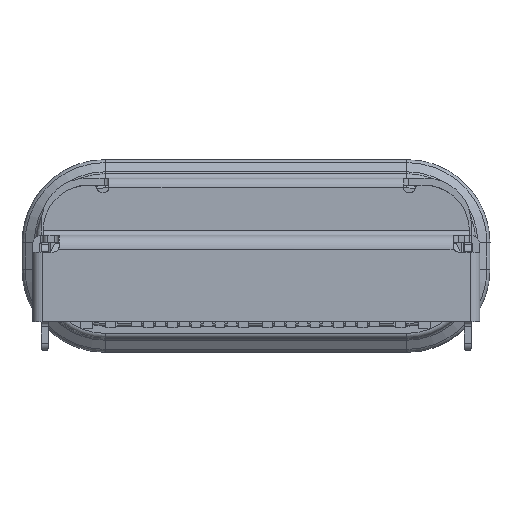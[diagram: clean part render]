
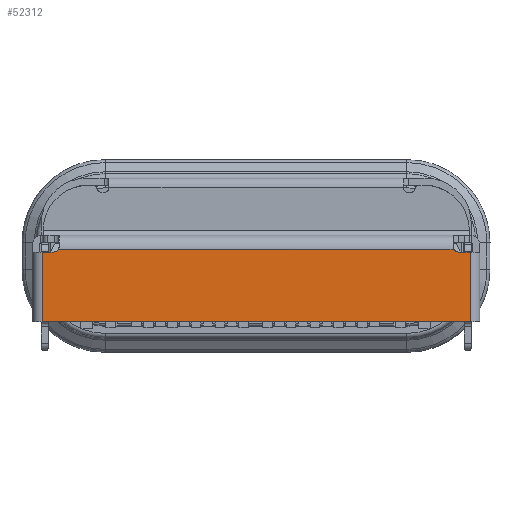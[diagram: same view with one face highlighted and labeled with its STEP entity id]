
A CAD part, top view. The second image highlights one B-rep face of the part: STEP entity #52312.
In plain terms, the highlighted planar face has unit normal (0, 0, -1).
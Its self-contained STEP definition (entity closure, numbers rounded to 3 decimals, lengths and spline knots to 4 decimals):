
#47320=CARTESIAN_POINT('',(1.8526,2.745,
-6.));
#47322=DIRECTION('',(1.,0.,0.));
#47323=VECTOR('',#47322,8.3248);
#47324=CARTESIAN_POINT('',(1.8526,2.745,
-6.));
#47325=LINE('',#47324,#47323);
#47326=CARTESIAN_POINT('',(10.1774,2.745,
-6.));
#47455=DIRECTION('',(1.,0.,0.));
#47456=VECTOR('',#47455,9.01);
#47457=CARTESIAN_POINT('',(1.51,1.215,-6.));
#47458=LINE('',#47457,#47456);
#47459=CARTESIAN_POINT('',(10.29,2.785,-6.));
#47460=DIRECTION('',(0.,0.,-1.));
#47461=DIRECTION('',(0.,-1.,0.));
#47462=AXIS2_PLACEMENT_3D('',#47459,#47460,#47461);
#47464=CARTESIAN_POINT('',(10.265,2.7933,
-6.));
#47465=DIRECTION('',(0.,0.,-1.));
#47466=DIRECTION('',(-0.186,-0.983,0.));
#47467=AXIS2_PLACEMENT_3D('',#47464,#47465,#47466);
#47469=CARTESIAN_POINT('',(1.765,2.7933,-6.));
#47470=DIRECTION('',(0.,0.,-1.));
#47471=DIRECTION('',(0.876,-0.483,0.));
#47472=AXIS2_PLACEMENT_3D('',#47469,#47470,#47471);
#47474=CARTESIAN_POINT('',(1.74,2.785,-6.));
#47475=DIRECTION('',(0.,0.,-1.));
#47476=DIRECTION('',(0.437,-0.9,0.));
#47477=AXIS2_PLACEMENT_3D('',#47474,#47475,#47476);
#47483=DIRECTION('',(0.,-1.,0.));
#47484=VECTOR('',#47483,1.47);
#47485=CARTESIAN_POINT('',(10.52,2.685,-6.));
#47486=LINE('',#47485,#47484);
#47698=DIRECTION('',(1.,0.,0.));
#47699=VECTOR('',#47698,0.23);
#47700=CARTESIAN_POINT('',(10.29,2.685,-6.));
#47701=LINE('',#47700,#47699);
#47747=DIRECTION('',(1.,0.,0.));
#47748=VECTOR('',#47747,0.23);
#47749=CARTESIAN_POINT('',(1.51,2.685,-6.));
#47750=LINE('',#47749,#47748);
#47968=DIRECTION('',(0.,1.,0.));
#47969=VECTOR('',#47968,1.47);
#47970=CARTESIAN_POINT('',(1.51,1.215,-6.));
#47971=LINE('',#47970,#47969);
#48394=VERTEX_POINT('',#47320);
#48395=VERTEX_POINT('',#47326);
#49123=CARTESIAN_POINT('',(1.51,1.215,-6.));
#49124=CARTESIAN_POINT('',(10.52,1.215,-6.));
#49125=VERTEX_POINT('',#49123);
#49126=VERTEX_POINT('',#49124);
#49135=CARTESIAN_POINT('',(10.52,2.685,-6.));
#49136=VERTEX_POINT('',#49135);
#49137=CARTESIAN_POINT('',(10.29,2.685,-6.));
#49138=VERTEX_POINT('',#49137);
#49139=CARTESIAN_POINT('',(10.2464,2.695,-6.));
#49140=VERTEX_POINT('',#49139);
#49141=CARTESIAN_POINT('',(1.7837,2.695,-6.));
#49142=VERTEX_POINT('',#49141);
#49143=CARTESIAN_POINT('',(1.74,2.685,-6.));
#49144=VERTEX_POINT('',#49143);
#49145=CARTESIAN_POINT('',(1.51,2.685,-6.));
#49146=VERTEX_POINT('',#49145);
#52287=CARTESIAN_POINT('',(6.015,1.98,-6.));
#52288=DIRECTION('',(0.,0.,1.));
#52289=DIRECTION('',(1.,0.,0.));
#52290=AXIS2_PLACEMENT_3D('',#52287,#52288,#52289);
#52291=PLANE('',#52290);
#52292=ORIENTED_EDGE('',*,*,#52261,.T.);
#52294=ORIENTED_EDGE('',*,*,#52293,.F.);
#52296=ORIENTED_EDGE('',*,*,#52295,.F.);
#52298=ORIENTED_EDGE('',*,*,#52297,.T.);
#52300=ORIENTED_EDGE('',*,*,#52299,.T.);
#52301=ORIENTED_EDGE('',*,*,#52180,.F.);
#52303=ORIENTED_EDGE('',*,*,#52302,.T.);
#52305=ORIENTED_EDGE('',*,*,#52304,.T.);
#52307=ORIENTED_EDGE('',*,*,#52306,.F.);
#52309=ORIENTED_EDGE('',*,*,#52308,.F.);
#52310=EDGE_LOOP('',(#52292,#52294,#52296,#52298,#52300,#52301,#52303,#52305,
#52307,#52309));
#52311=FACE_OUTER_BOUND('',#52310,.F.);
#52312=ADVANCED_FACE('',(#52311),#52291,.F.);
#47463=CIRCLE('',#47462,0.1);
#47468=CIRCLE('',#47467,0.1);
#47473=CIRCLE('',#47472,0.1);
#47478=CIRCLE('',#47477,0.1);
#52180=EDGE_CURVE('',#48394,#48395,#47325,.T.);
#52261=EDGE_CURVE('',#49125,#49126,#47458,.T.);
#52293=EDGE_CURVE('',#49136,#49126,#47486,.T.);
#52295=EDGE_CURVE('',#49138,#49136,#47701,.T.);
#52297=EDGE_CURVE('',#49138,#49140,#47463,.T.);
#52299=EDGE_CURVE('',#49140,#48395,#47468,.T.);
#52302=EDGE_CURVE('',#48394,#49142,#47473,.T.);
#52304=EDGE_CURVE('',#49142,#49144,#47478,.T.);
#52306=EDGE_CURVE('',#49146,#49144,#47750,.T.);
#52308=EDGE_CURVE('',#49125,#49146,#47971,.T.);
